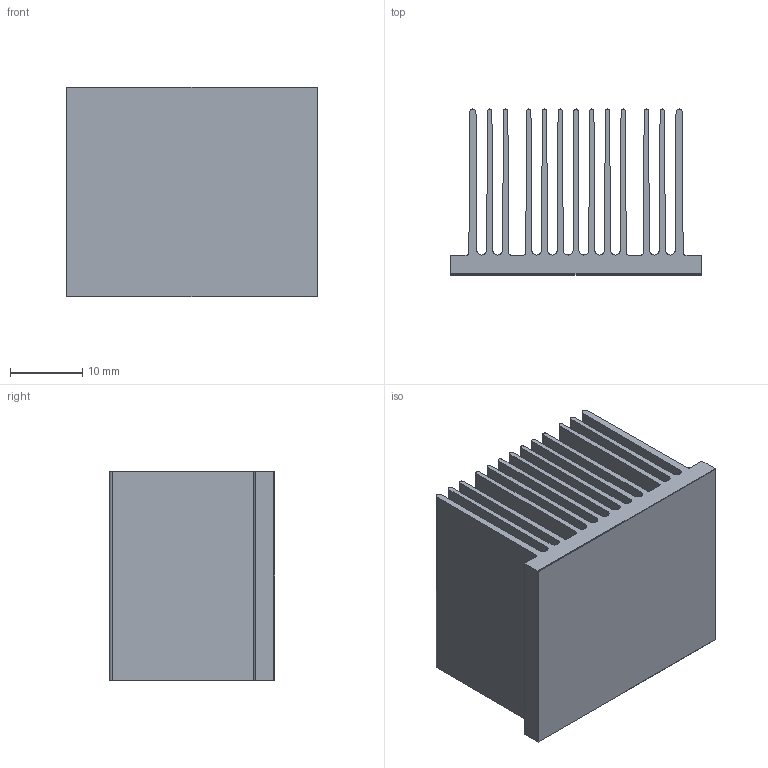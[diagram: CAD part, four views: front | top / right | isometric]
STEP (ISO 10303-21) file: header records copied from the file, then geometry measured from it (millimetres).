
FILE_DESCRIPTION (( 'STEP AP214' ), '1' );
FILE_NAME ('INH35001-23-2.6.STEP', '2023-02-17T22:48:49', ( '' ), ( '' ), 'SwSTEP 2.0', 'SolidWorks 2020', '' );
FILE_SCHEMA (( 'AUTOMOTIVE_DESIGN' ));
Length unit declared in the file: millimetre
Products named in the file (1): INH35001-23-2.6
Bounding box: 34.8 x 22.99 x 29 mm (x, y, z)
Volume: 8650.2 mm3; surface area: 19685.2 mm2
Topology: 2 solids, 2 shells, 90 faces, 258 edges, 172 vertices
Faces by surface type: plane 51, cylinder 39
Entity records: 3993 total; most frequent: CARTESIAN_POINT 521, DIRECTION 518, ORIENTED_EDGE 516, EDGE_CURVE 258, LINE 180, VECTOR 180, VERTEX_POINT 172, AXIS2_PLACEMENT_3D 169
